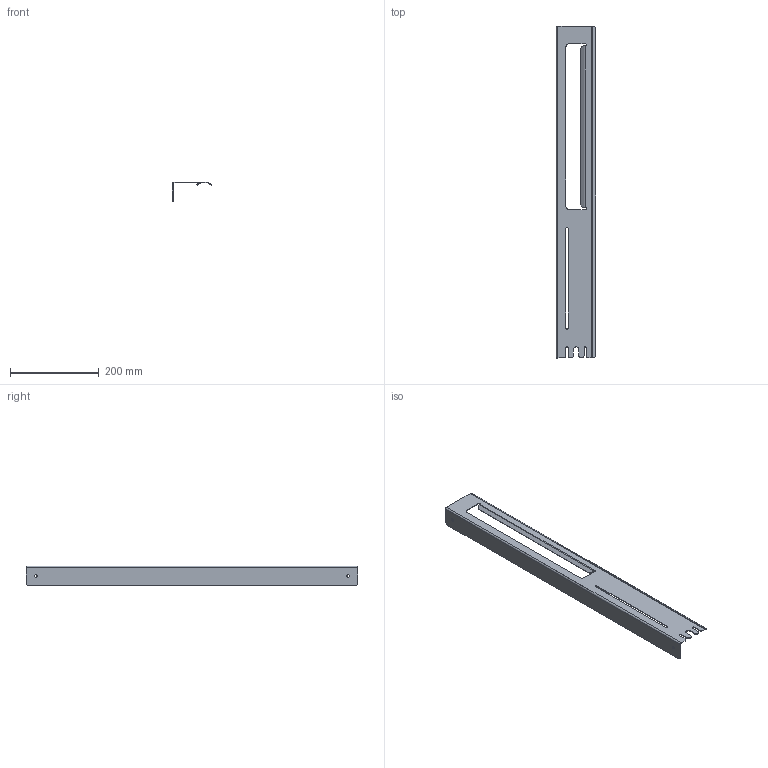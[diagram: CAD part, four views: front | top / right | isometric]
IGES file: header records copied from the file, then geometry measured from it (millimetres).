
Start section: IGES file generated by C3D Converter 1.5 translator by C3D Labs., translator version IGESOUT-5.1.
Global section: file name: D:\×åðòåæè èçäåëèé Âàííà 2023\Ïîëêè Simple Íîâûå\3D\×åðòåæè 22.07.2023\3D\S²MPLE_2_750_P375_KR_LEFT.igs; preprocessor: 1.0; author: a.kalenyk83@gmail.com; organization: unknown; date: -17770622:111840; units: millimetre
Bounding box: 88.5 x 750 x 45 mm (x, y, z)
Volume: 127535.1 mm3; surface area: 174892.3 mm2
Topology: 1 solids, 1 shells, 66 faces, 168 edges, 104 vertices
Faces by surface type: bspline 37, revolution 29
